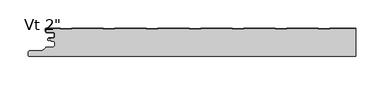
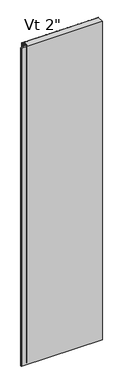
"""IFC4 building model written with IfcOpenShell, lengths in millimetres: plate geometry."""

from ifc_helpers import new_model, si_unit, frame, origin, place, context, project, spatial, polyline, circle_curve, source, transform, mapped, element, save
from ifc_brep_helpers import plane_surface, cylinder_surface, revolved_surface, advanced_brep


def plate_80999a55(model_context):
    return source(origin(), model_context, "Body", "AdvancedBrep", [
        advanced_brep(
        [(-271.7683, -22.470875, 2400.0), (-270.567176, -21.3014003, 2400.0), (-266.8087826, -21.3014003, 2400.0), (-266.8087826, -22.6998791, 2400.0), (-264.1096715, -22.6998791, 2400.0), (-260.7596762, -26.0498744, 2400.0), (-260.7596762, -30.4498656, 2400.0), (-264.1096715, -33.7998609, 2400.0), (-275.9205606, -33.7998609, 2400.0), (-277.1226383, -34.2977778, 2400.0), (-282.6247094, -39.7998489, 2400.0), (-304.7198391, -39.7998489, 2400.0), (-307.3765707, -42.0184509, 2400.0), (-307.8125697, -47.0002718, 2400.0), (-305.2521175, -49.7945967, 2400.0), (272.7999998, -49.8, 2400.0), (272.7999998, -1.0063443, 2400.0), (227.5794012, -1.0063443, 2400.0), (226.1937683, -2.206575, 2400.0), (206.818602, -2.206575, 2400.0), (205.432969, -1.0063443, 2400.0), (151.3795536, -1.0063443, 2400.0), (149.9939207, -2.206575, 2400.0), (130.6187544, -2.206575, 2400.0), (129.2331214, -1.0063443, 2400.0), (75.179706, -1.0063443, 2400.0), (73.7940731, -2.206575, 2400.0), (54.4189068, -2.206575, 2400.0), (53.0332738, -1.0063443, 2400.0), (-1.0201416, -1.0063443, 2400.0), (-2.4057745, -2.206575, 2400.0), (-21.7809408, -2.206575, 2400.0), (-23.1665738, -1.0063443, 2400.0), (-77.2199892, -1.0063443, 2400.0), (-78.6056221, -2.206575, 2400.0), (-97.9807884, -2.206575, 2400.0), (-99.3664214, -1.0063443, 2400.0), (-153.4198368, -1.0063443, 2400.0), (-154.8054697, -2.206575, 2400.0), (-174.180636, -2.206575, 2400.0), (-175.566269, -1.0063443, 2400.0), (-229.6196844, -1.0063443, 2400.0), (-231.0053173, -2.206575, 2400.0), (-250.3804836, -2.206575, 2400.0), (-251.7661166, -1.0063443, 2400.0), (-276.2662504, -1.0063443, 2400.0), (-276.2662504, -5.2378832, 2400.0), (-274.4962562, -7.0078774, 2400.0), (-264.0762777, -7.0078774, 2400.0), (-260.7762818, -10.3078733, 2400.0), (-260.7762818, -14.7078645, 2400.0), (-264.0762775, -18.0078602, 2400.0), (-266.7684873, -18.0078602, 2400.0), (-266.7684873, -19.0078547, 2400.0), (-270.768691, -19.0078547, 2400.0), (-271.7686882, -18.0078635, 2400.0), (-272.7999998, -19.0391752, 2400.0), (-272.7999998, -21.4391751, 2400.0), (-271.7683, -22.470875, 0.0), (-272.7999998, -21.4391751, 0.0), (-272.7999998, -19.0391752, 0.0), (-271.7686882, -18.0078635, 0.0), (-270.768691, -19.0078547, 0.0), (-266.7684873, -19.0078547, 0.0), (-266.7684873, -18.0078602, 0.0), (-264.0762775, -18.0078602, 0.0), (-260.7762818, -14.7078645, 0.0), (-260.7762818, -10.3078733, 0.0), (-264.0762777, -7.0078774, 0.0), (-274.4962562, -7.0078774, 0.0), (-276.2662504, -5.2378832, 0.0), (-276.2662504, -1.0063443, 0.0), (-251.7661166, -1.0063443, 0.0), (-250.3804836, -2.206575, 0.0), (-231.0053173, -2.206575, 0.0), (-229.6196844, -1.0063443, 0.0), (-175.566269, -1.0063443, 0.0), (-174.180636, -2.206575, 0.0), (-154.8054697, -2.206575, 0.0), (-153.4198368, -1.0063443, 0.0), (-99.3664214, -1.0063443, 0.0), (-97.9807884, -2.206575, 0.0), (-78.6056221, -2.206575, 0.0), (-77.2199892, -1.0063443, 0.0), (-23.1665738, -1.0063443, 0.0), (-21.7809408, -2.206575, 0.0), (-2.4057745, -2.206575, 0.0), (-1.0201416, -1.0063443, 0.0), (53.0332738, -1.0063443, 0.0), (54.4189068, -2.206575, 0.0), (73.7940731, -2.206575, 0.0), (75.179706, -1.0063443, 0.0), (129.2331214, -1.0063443, 0.0), (130.6187544, -2.206575, 0.0), (149.9939207, -2.206575, 0.0), (151.3795536, -1.0063443, 0.0), (205.432969, -1.0063443, 0.0), (206.818602, -2.206575, 0.0), (226.1937683, -2.206575, 0.0), (227.5794012, -1.0063443, 0.0), (272.7999998, -1.0063443, 0.0), (272.7999998, -49.8, 0.0), (-305.2521175, -49.8, 0.0), (-307.8125697, -47.0002718, 0.0), (-307.3765707, -42.0184509, 0.0), (-304.7198391, -39.7998489, 0.0), (-282.6247094, -39.7998489, 0.0), (-277.1226383, -34.2977778, 0.0), (-275.9205606, -33.7998609, 0.0), (-264.1096715, -33.7998609, 0.0), (-260.7596762, -30.4498656, 0.0), (-260.7596762, -26.0498744, 0.0), (-264.1096715, -22.6998791, 0.0), (-266.8087826, -22.6998791, 0.0), (-266.8087826, -21.3014003, 0.0), (-270.567176, -21.3014003, 0.0)],
        [
            (0, 1, circle_curve(frame((-270.5686906, -22.5013969, 2400.0), z_axis=(0.0, 0.0, -1.0), x_axis=(-1.0, 0.0, 0.0)), 1.1999976)),
            (1, 2),
            (2, 3),
            (3, 4),
            (4, 5, circle_curve(frame((-264.1096715, -26.0498744, 2400.0), z_axis=(0.0, 0.0, -1.0), x_axis=(-1.0, 0.0, 0.0)), 3.3499953)),
            (5, 6),
            (6, 7, circle_curve(frame((-264.1096715, -30.4498656, 2400.0), z_axis=(0.0, 0.0, -1.0), x_axis=(-1.0, 0.0, 0.0)), 3.3499953)),
            (7, 8),
            (8, 9, circle_curve(frame((-275.9205606, -35.4998555, 2400.0), z_axis=(0.0, 0.0, 1.0), x_axis=(-1.0, 0.0, 0.0)), 1.6999946)),
            (9, 10),
            (10, 11),
            (11, 12, circle_curve(frame((-304.7198391, -42.4998415, 2400.0), z_axis=(0.0, 0.0, 1.0), x_axis=(-1.0, 0.0, 0.0)), 2.6999926)),
            (12, 13),
            (13, 14, circle_curve(frame((-305.2521175, -47.2243575, 2400.0), z_axis=(0.0, 0.0, 1.0), x_axis=(-1.0, 0.0, 0.0)), 2.5702393)),
            (14, 15),
            (15, 16),
            (16, 17),
            (17, 18),
            (18, 19),
            (19, 20),
            (20, 21),
            (21, 22),
            (22, 23),
            (23, 24),
            (24, 25),
            (25, 26),
            (26, 27),
            (27, 28),
            (28, 29),
            (29, 30),
            (30, 31),
            (31, 32),
            (32, 33),
            (33, 34),
            (34, 35),
            (35, 36),
            (36, 37),
            (37, 38),
            (38, 39),
            (39, 40),
            (40, 41),
            (41, 42),
            (42, 43),
            (43, 44),
            (44, 45),
            (45, 46),
            (46, 47, circle_curve(frame((-274.4962562, -5.2378832, 2400.0), z_axis=(0.0, 0.0, 1.0), x_axis=(-1.0, 0.0, 0.0)), 1.7699942)),
            (47, 48),
            (48, 49, circle_curve(frame((-264.0762777, -10.3078733, 2400.0), z_axis=(0.0, 0.0, -1.0), x_axis=(-1.0, 0.0, 0.0)), 3.2999959)),
            (49, 50),
            (50, 51, circle_curve(frame((-264.0762775, -14.7078645, 2400.0), z_axis=(0.0, 0.0, -1.0), x_axis=(-1.0, 0.0, 0.0)), 3.2999957)),
            (51, 52),
            (52, 53),
            (53, 54),
            (54, 55, circle_curve(frame((-270.768691, -18.0078576, 2400.0), z_axis=(0.0, 0.0, -1.0), x_axis=(-1.0, 0.0, 0.0)), 0.9999972)),
            (55, 56),
            (56, 57),
            (57, 0),
            (58, 59),
            (59, 60),
            (60, 61),
            (61, 62, circle_curve(frame((-270.768691, -18.0078576, 0.0), z_axis=(0.0, 0.0, 1.0), x_axis=(-1.0, 0.0, 0.0)), 0.9999972)),
            (62, 63),
            (63, 64),
            (64, 65),
            (65, 66, circle_curve(frame((-264.0762775, -14.7078645, 0.0), z_axis=(0.0, 0.0, 1.0), x_axis=(-1.0, 0.0, 0.0)), 3.2999957)),
            (66, 67),
            (67, 68, circle_curve(frame((-264.0762777, -10.3078733, 0.0), z_axis=(0.0, 0.0, 1.0), x_axis=(-1.0, 0.0, 0.0)), 3.2999959)),
            (68, 69),
            (69, 70, circle_curve(frame((-274.4962562, -5.2378832, 0.0), z_axis=(0.0, 0.0, -1.0), x_axis=(-1.0, 0.0, 0.0)), 1.7699942)),
            (70, 71),
            (71, 72),
            (72, 73),
            (73, 74),
            (74, 75),
            (75, 76),
            (76, 77),
            (77, 78),
            (78, 79),
            (79, 80),
            (80, 81),
            (81, 82),
            (82, 83),
            (83, 84),
            (84, 85),
            (85, 86),
            (86, 87),
            (87, 88),
            (88, 89),
            (89, 90),
            (90, 91),
            (91, 92),
            (92, 93),
            (93, 94),
            (94, 95),
            (95, 96),
            (96, 97),
            (97, 98),
            (98, 99),
            (99, 100),
            (100, 101),
            (101, 102),
            (102, 103, circle_curve(frame((-305.2521175, -47.2243575, 0.0), z_axis=(0.0, 0.0, -1.0), x_axis=(-1.0, 0.0, 0.0)), 2.5702393)),
            (103, 104),
            (104, 105, circle_curve(frame((-304.7198391, -42.4998415, 0.0), z_axis=(0.0, 0.0, -1.0), x_axis=(-1.0, 0.0, 0.0)), 2.6999926)),
            (105, 106),
            (106, 107),
            (107, 108, circle_curve(frame((-275.9205606, -35.4998555, 0.0), z_axis=(0.0, 0.0, -1.0), x_axis=(-1.0, 0.0, 0.0)), 1.6999946)),
            (108, 109),
            (109, 110, circle_curve(frame((-264.1096715, -30.4498656, 0.0), z_axis=(0.0, 0.0, 1.0), x_axis=(-1.0, 0.0, 0.0)), 3.3499953)),
            (110, 111),
            (111, 112, circle_curve(frame((-264.1096715, -26.0498744, 0.0), z_axis=(0.0, 0.0, 1.0), x_axis=(-1.0, 0.0, 0.0)), 3.3499953)),
            (112, 113),
            (113, 114),
            (114, 115),
            (115, 58, circle_curve(frame((-270.5686906, -22.5013969, 0.0), z_axis=(0.0, 0.0, 1.0), x_axis=(-1.0, 0.0, 0.0)), 1.1999976)),
            (15, 101),
            (100, 16),
            (57, 59),
            (58, 0),
            (56, 60),
            (55, 61),
            (54, 62),
            (53, 63),
            (52, 64),
            (51, 65),
            (50, 66),
            (49, 67),
            (48, 68),
            (47, 69),
            (46, 70),
            (45, 71),
            (14, 102),
            (13, 103),
            (12, 104),
            (11, 105),
            (10, 106),
            (9, 107),
            (8, 108),
            (7, 109),
            (6, 110),
            (5, 111),
            (4, 112),
            (3, 113),
            (2, 114),
            (1, 115),
            (44, 72),
            (43, 73),
            (42, 74),
            (41, 75),
            (40, 76),
            (39, 77),
            (38, 78),
            (37, 79),
            (36, 80),
            (35, 81),
            (34, 82),
            (33, 83),
            (32, 84),
            (31, 85),
            (30, 86),
            (29, 87),
            (28, 88),
            (27, 89),
            (26, 90),
            (25, 91),
            (24, 92),
            (23, 93),
            (22, 94),
            (21, 95),
            (20, 96),
            (19, 97),
            (18, 98),
            (17, 99),
        ],
        [
            plane_surface(frame((184.4000002, -49.8, 2400.0), z_axis=(0.0, 0.0, 1.0), x_axis=(0.0, -1.0, 0.0))),
            plane_surface(frame((184.4000002, -49.8, 0.0), z_axis=(0.0, 0.0, -1.0), x_axis=(0.0, -1.0, 0.0))),
            plane_surface(frame((272.7999998, -60.8, 2400.0), z_axis=(1.0, 0.0, 0.0), x_axis=(0.0, 0.0, -1.0))),
            plane_surface(frame((-271.7683, -22.470875, 2400.0), z_axis=(-0.7071067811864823, -0.7071067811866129, 0.0), x_axis=(0.0, 0.0, -1.0))),
            plane_surface(frame((-272.7999998, -21.4391751, 2400.0), z_axis=(-1.0, 0.0, 0.0), x_axis=(0.0, 0.0, -1.0))),
            plane_surface(frame((-272.7999998, -19.0391752, 2400.0), z_axis=(-0.7071067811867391, 0.707106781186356, 0.0), x_axis=(0.0, 0.0, -1.0))),
            revolved_surface(polyline([(-271.7686882, -18.0078576, 0.0), (-271.7686882, -18.0078576, 2400.0)]), (-270.768691, -18.0078576, 2400.0), (0.0, 0.0, -1.0)),
            plane_surface(frame((-270.768691, -19.0078547, 2400.0), z_axis=(0.0, 1.0, 0.0), x_axis=(0.0, 0.0, -1.0))),
            plane_surface(frame((-266.7684873, -19.0078547, 2400.0), z_axis=(-1.0, 0.0, 0.0), x_axis=(0.0, 0.0, -1.0))),
            plane_surface(frame((-266.7684873, -18.0078602, 2400.0), z_axis=(0.0, 1.0, 0.0), x_axis=(0.0, 0.0, -1.0))),
            revolved_surface(polyline([(-267.3762732, -14.7078645, 0.0), (-267.3762732, -14.7078645, 2400.0)]), (-264.0762775, -14.7078645, 2400.0), (0.0, 0.0, -1.0)),
            plane_surface(frame((-260.7762818, -14.7078645, 2400.0), z_axis=(-1.0, 0.0, 0.0), x_axis=(0.0, 0.0, -1.0))),
            revolved_surface(polyline([(-267.3762736, -10.3078733, 0.0), (-267.3762736, -10.3078733, 2400.0)]), (-264.0762777, -10.3078733, 2400.0), (0.0, 0.0, -1.0)),
            plane_surface(frame((-264.0762777, -7.0078774, 2400.0), z_axis=(0.0, -1.0, 0.0), x_axis=(0.0, 0.0, -1.0))),
            cylinder_surface(frame((-274.4962562, -5.2378832, 2400.0), z_axis=(0.0, 0.0, 1.0), x_axis=(-1.0, 0.0, 0.0)), 1.7699942),
            plane_surface(frame((-276.2662504, -5.2378832, 2400.0), z_axis=(-1.0, 0.0, 0.0), x_axis=(0.0, 0.0, -1.0))),
            plane_surface(frame((593.1156221, -49.8, 2400.0), z_axis=(0.0, -1.0, 0.0), x_axis=(0.0, 0.0, -1.0))),
            cylinder_surface(frame((-305.2521175, -47.2243575, 2400.0), z_axis=(0.0, 0.0, 1.0), x_axis=(-1.0, 0.0, 0.0)), 2.5702393),
            plane_surface(frame((-307.8125697, -47.0002718, 2400.0), z_axis=(-0.9961921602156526, 0.0871847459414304, 0.0), x_axis=(0.0, 0.0, -1.0))),
            cylinder_surface(frame((-304.7198391, -42.4998415, 2400.0), z_axis=(0.0, 0.0, 1.0), x_axis=(-1.0, 0.0, 0.0)), 2.6999926),
            plane_surface(frame((-304.7198391, -39.7998489, 2400.0), z_axis=(0.0, 1.0, 0.0), x_axis=(0.0, 0.0, -1.0))),
            plane_surface(frame((-282.6247094, -39.7998489, 2400.0), z_axis=(-0.7071067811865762, 0.7071067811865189, 0.0), x_axis=(0.0, 0.0, -1.0))),
            cylinder_surface(frame((-275.9205606, -35.4998555, 2400.0), z_axis=(0.0, 0.0, 1.0), x_axis=(-1.0, 0.0, 0.0)), 1.6999946),
            plane_surface(frame((-275.9205606, -33.7998609, 2400.0), z_axis=(0.0, 1.0, 0.0), x_axis=(0.0, 0.0, -1.0))),
            revolved_surface(polyline([(-267.4596668, -30.4498656, 0.0), (-267.4596668, -30.4498656, 2400.0)]), (-264.1096715, -30.4498656, 2400.0), (0.0, 0.0, -1.0)),
            plane_surface(frame((-260.7596762, -30.4498656, 2400.0), z_axis=(-1.0, 0.0, 0.0), x_axis=(0.0, 0.0, -1.0))),
            revolved_surface(polyline([(-267.4596668, -26.0498744, 0.0), (-267.4596668, -26.0498744, 2400.0)]), (-264.1096715, -26.0498744, 2400.0), (0.0, 0.0, -1.0)),
            plane_surface(frame((-264.1096715, -22.6998791, 2400.0), z_axis=(0.0, -1.0, 0.0), x_axis=(0.0, 0.0, -1.0))),
            plane_surface(frame((-266.8087826, -22.6998791, 2400.0), z_axis=(-1.0, 0.0, 0.0), x_axis=(0.0, 0.0, -1.0))),
            plane_surface(frame((-266.8087826, -21.3014003, 2400.0), z_axis=(0.0, -1.0, 0.0), x_axis=(0.0, 0.0, -1.0))),
            revolved_surface(polyline([(-271.76868820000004, -22.5013969, 0.0), (-271.76868820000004, -22.5013969, 2400.0)]), (-270.5686906, -22.5013969, 2400.0), (0.0, 0.0, -1.0)),
            plane_surface(frame((-276.2662504, -1.0063443, 2400.0), z_axis=(0.0, 1.0, 0.0), x_axis=(0.0, 0.0, -1.0))),
            plane_surface(frame((-251.7661166, -1.0063443, 2400.0), z_axis=(0.6547276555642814, 0.7558648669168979, 0.0), x_axis=(0.0, 0.0, -1.0))),
            plane_surface(frame((-250.3804836, -2.206575, 2400.0), z_axis=(0.0, 1.0, 0.0), x_axis=(0.0, 0.0, -1.0))),
            plane_surface(frame((-231.0053173, -2.206575, 2400.0), z_axis=(-0.6547276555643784, 0.7558648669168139, 0.0), x_axis=(0.0, 0.0, -1.0))),
            plane_surface(frame((-229.6196844, -1.0063443, 2400.0), z_axis=(0.0, 1.0, 0.0), x_axis=(0.0, 0.0, -1.0))),
            plane_surface(frame((-175.566269, -1.0063443, 2400.0), z_axis=(0.6547276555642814, 0.7558648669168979, 0.0), x_axis=(0.0, 0.0, -1.0))),
            plane_surface(frame((-174.180636, -2.206575, 2400.0), z_axis=(0.0, 1.0, 0.0), x_axis=(0.0, 0.0, -1.0))),
            plane_surface(frame((-154.8054697, -2.206575, 2400.0), z_axis=(-0.6547276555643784, 0.7558648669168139, 0.0), x_axis=(0.0, 0.0, -1.0))),
            plane_surface(frame((-153.4198368, -1.0063443, 2400.0), z_axis=(0.0, 1.0, 0.0), x_axis=(0.0, 0.0, -1.0))),
            plane_surface(frame((-99.3664214, -1.0063443, 2400.0), z_axis=(0.6547276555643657, 0.7558648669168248, 0.0), x_axis=(0.0, 0.0, -1.0))),
            plane_surface(frame((-97.9807884, -2.206575, 2400.0), z_axis=(0.0, 1.0, 0.0), x_axis=(0.0, 0.0, -1.0))),
            plane_surface(frame((-78.6056221, -2.206575, 2400.0), z_axis=(-0.6547276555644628, 0.7558648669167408, 0.0), x_axis=(0.0, 0.0, -1.0))),
            plane_surface(frame((-77.2199892, -1.0063443, 2400.0), z_axis=(0.0, 1.0, 0.0), x_axis=(0.0, 0.0, -1.0))),
            plane_surface(frame((-23.1665738, -1.0063443, 2400.0), z_axis=(0.6547276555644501, 0.7558648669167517, 0.0), x_axis=(0.0, 0.0, -1.0))),
            plane_surface(frame((-21.7809408, -2.206575, 2400.0), z_axis=(0.0, 1.0, 0.0), x_axis=(0.0, 0.0, -1.0))),
            plane_surface(frame((-2.4057745, -2.206575, 2400.0), z_axis=(-0.6547276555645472, 0.7558648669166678, 0.0), x_axis=(0.0, 0.0, -1.0))),
            plane_surface(frame((-1.0201416, -1.0063443, 2400.0), z_axis=(0.0, 1.0, 0.0), x_axis=(0.0, 0.0, -1.0))),
            plane_surface(frame((53.0332738, -1.0063443, 2400.0), z_axis=(0.6547276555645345, 0.7558648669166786, 0.0), x_axis=(0.0, 0.0, -1.0))),
            plane_surface(frame((54.4189068, -2.206575, 2400.0), z_axis=(0.0, 1.0, 0.0), x_axis=(0.0, 0.0, -1.0))),
            plane_surface(frame((73.7940731, -2.206575, 2400.0), z_axis=(-0.6547276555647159, 0.7558648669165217, 0.0), x_axis=(0.0, 0.0, -1.0))),
            plane_surface(frame((75.179706, -1.0063443, 2400.0), z_axis=(0.0, 1.0, 0.0), x_axis=(0.0, 0.0, -1.0))),
            plane_surface(frame((129.2331214, -1.0063443, 2400.0), z_axis=(0.6547276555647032, 0.7558648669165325, 0.0), x_axis=(0.0, 0.0, -1.0))),
            plane_surface(frame((130.6187544, -2.206575, 2400.0), z_axis=(0.0, 1.0, 0.0), x_axis=(0.0, 0.0, -1.0))),
            plane_surface(frame((149.9939207, -2.206575, 2400.0), z_axis=(-0.6547276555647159, 0.7558648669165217, 0.0), x_axis=(0.0, 0.0, -1.0))),
            plane_surface(frame((151.3795536, -1.0063443, 2400.0), z_axis=(0.0, 1.0, 0.0), x_axis=(0.0, 0.0, -1.0))),
            plane_surface(frame((205.432969, -1.0063443, 2400.0), z_axis=(0.6547276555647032, 0.7558648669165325, 0.0), x_axis=(0.0, 0.0, -1.0))),
            plane_surface(frame((206.818602, -2.206575, 2400.0), z_axis=(0.0, 1.0, 0.0), x_axis=(0.0, 0.0, -1.0))),
            plane_surface(frame((226.1937683, -2.206575, 2400.0), z_axis=(-0.6547276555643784, 0.7558648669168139, 0.0), x_axis=(0.0, 0.0, -1.0))),
            plane_surface(frame((227.5794012, -1.0063443, 2400.0), z_axis=(0.0, 1.0, 0.0), x_axis=(0.0, 0.0, -1.0))),
        ],
        [
            (0, [[1, 2, 3, 4, 5, 6, 7, 8, 9, 10, 11, 12, 13, 14, 15, 16, 17, 18, 19, 20, 21, 22, 23, 24, 25, 26, 27, 28, 29, 30, 31, 32, 33, 34, 35, 36, 37, 38, 39, 40, 41, 42, 43, 44, 45, 46, 47, 48, 49, 50, 51, 52, 53, 54, 55, 56, 57, 58]]),
            (1, [[59, 60, 61, 62, 63, 64, 65, 66, 67, 68, 69, 70, 71, 72, 73, 74, 75, 76, 77, 78, 79, 80, 81, 82, 83, 84, 85, 86, 87, 88, 89, 90, 91, 92, 93, 94, 95, 96, 97, 98, 99, 100, 101, 102, 103, 104, 105, 106, 107, 108, 109, 110, 111, 112, 113, 114, 115, 116]]),
            (2, [[117, -101, 118, -16]]),
            (3, [[119, -59, 120, -58]]),
            (4, [[121, -60, -119, -57]]),
            (5, [[122, -61, -121, -56]]),
            (6, [[123, -62, -122, -55]]),
            (7, [[124, -63, -123, -54]]),
            (8, [[125, -64, -124, -53]]),
            (9, [[126, -65, -125, -52]]),
            (10, [[127, -66, -126, -51]]),
            (11, [[128, -67, -127, -50]]),
            (12, [[129, -68, -128, -49]]),
            (13, [[130, -69, -129, -48]]),
            (14, [[131, -70, -130, -47]]),
            (15, [[132, -71, -131, -46]]),
            (16, [[-102, -117, -15, 133]]),
            (17, [[134, -103, -133, -14]]),
            (18, [[135, -104, -134, -13]]),
            (19, [[136, -105, -135, -12]]),
            (20, [[137, -106, -136, -11]]),
            (21, [[138, -107, -137, -10]]),
            (22, [[139, -108, -138, -9]]),
            (23, [[140, -109, -139, -8]]),
            (24, [[141, -110, -140, -7]]),
            (25, [[142, -111, -141, -6]]),
            (26, [[143, -112, -142, -5]]),
            (27, [[144, -113, -143, -4]]),
            (28, [[145, -114, -144, -3]]),
            (29, [[146, -115, -145, -2]]),
            (30, [[-120, -116, -146, -1]]),
            (31, [[147, -72, -132, -45]]),
            (32, [[148, -73, -147, -44]]),
            (33, [[149, -74, -148, -43]]),
            (34, [[150, -75, -149, -42]]),
            (35, [[151, -76, -150, -41]]),
            (36, [[152, -77, -151, -40]]),
            (37, [[153, -78, -152, -39]]),
            (38, [[154, -79, -153, -38]]),
            (39, [[155, -80, -154, -37]]),
            (40, [[156, -81, -155, -36]]),
            (41, [[157, -82, -156, -35]]),
            (42, [[158, -83, -157, -34]]),
            (43, [[159, -84, -158, -33]]),
            (44, [[160, -85, -159, -32]]),
            (45, [[161, -86, -160, -31]]),
            (46, [[162, -87, -161, -30]]),
            (47, [[163, -88, -162, -29]]),
            (48, [[164, -89, -163, -28]]),
            (49, [[165, -90, -164, -27]]),
            (50, [[166, -91, -165, -26]]),
            (51, [[167, -92, -166, -25]]),
            (52, [[168, -93, -167, -24]]),
            (53, [[169, -94, -168, -23]]),
            (54, [[170, -95, -169, -22]]),
            (55, [[171, -96, -170, -21]]),
            (56, [[172, -97, -171, -20]]),
            (57, [[173, -98, -172, -19]]),
            (58, [[174, -99, -173, -18]]),
            (59, [[-17, -118, -100, -174]]),
        ],
    ),
        advanced_brep(
        [(-270.768691, -17.0015159, 2400.0), (-271.7686883, -18.0015191, 2400.0), (-270.768691, -19.0015105, 2400.0), (-266.7684874, -19.0015105, 2400.0), (-266.7684874, -18.0015159, 2400.0), (-264.0762776, -18.0015159, 2400.0), (-260.7762819, -14.7015202, 2400.0), (-260.7762819, -10.301529, 2400.0), (-264.0762774, -7.0015335, 2400.0), (-274.4962563, -7.0015335, 2400.0), (-276.2662505, -5.2315393, 2400.0), (-276.2662505, -0.9999916, 2400.0), (-251.7659738, -0.9999916, 2400.0), (-250.3803312, -2.2002307, 2400.0), (-231.0051649, -2.2002307, 2400.0), (-229.619532, -1.0, 2400.0), (-175.5661166, -1.0, 2400.0), (-174.1804836, -2.2002307, 2400.0), (-154.8053173, -2.2002307, 2400.0), (-153.4196844, -1.0, 2400.0), (-99.366269, -1.0, 2400.0), (-97.980636, -2.2002307, 2400.0), (-78.6054697, -2.2002307, 2400.0), (-77.2198368, -1.0, 2400.0), (-23.1664214, -1.0, 2400.0), (-21.7807884, -2.2002307, 2400.0), (-2.4056221, -2.2002307, 2400.0), (-1.0199892, -1.0, 2400.0), (53.0334262, -1.0, 2400.0), (54.4190592, -2.2002307, 2400.0), (73.7942255, -2.2002307, 2400.0), (75.1798584, -1.0, 2400.0), (129.2332738, -1.0, 2400.0), (130.6189068, -2.2002307, 2400.0), (149.9940731, -2.2002307, 2400.0), (151.379706, -1.0, 2400.0), (205.4331214, -1.0, 2400.0), (206.8187544, -2.2002307, 2400.0), (226.1939207, -2.2002307, 2400.0), (227.5795536, -1.0, 2400.0), (272.7999998, -1.0, 2400.0), (272.7999998, 0.0, 2400.0), (227.7287048, 0.0, 2400.0), (226.8120879, -0.3417885, 2400.0), (225.8210403, -1.2002307, 2400.0), (207.1916348, -1.2002307, 2400.0), (206.2005872, -0.3417885, 2400.0), (205.2839703, 0.0, 2400.0), (151.5288572, 0.0, 2400.0), (150.6122403, -0.3417885, 2400.0), (149.6211927, -1.2002307, 2400.0), (130.9917872, -1.2002307, 2400.0), (130.0007396, -0.3417885, 2400.0), (129.0841227, 0.0, 2400.0), (75.3290096, 0.0, 2400.0), (74.4123927, -0.3417885, 2400.0), (73.4213451, -1.2002307, 2400.0), (54.7919396, -1.2002307, 2400.0), (53.800892, -0.3417885, 2400.0), (52.8842751, 0.0, 2400.0), (-0.870838, 0.0, 2400.0), (-1.7874549, -0.3417885, 2400.0), (-2.7785025, -1.2002307, 2400.0), (-21.407908, -1.2002307, 2400.0), (-22.3989556, -0.3417885, 2400.0), (-23.3155725, 0.0, 2400.0), (-77.0706856, 0.0, 2400.0), (-77.9873025, -0.3417885, 2400.0), (-78.9783501, -1.2002307, 2400.0), (-97.6077556, -1.2002307, 2400.0), (-98.5988032, -0.3417885, 2400.0), (-99.5154201, 0.0, 2400.0), (-153.2705332, 0.0, 2400.0), (-154.1871501, -0.3417885, 2400.0), (-155.1781977, -1.2002307, 2400.0), (-173.8076032, -1.2002307, 2400.0), (-174.7986508, -0.3417885, 2400.0), (-175.7152677, 0.0, 2400.0), (-229.4703808, 0.0, 2400.0), (-230.3869977, -0.3417885, 2400.0), (-231.3780453, -1.2002307, 2400.0), (-250.0074508, -1.2002307, 2400.0), (-250.9984984, -0.3417885, 2400.0), (-251.9152067, 0.0, 2400.0), (-275.8662543, 8.4e-06, 2400.0), (-277.2662505, -1.3999878, 2400.0), (-277.2662505, -5.2315393, 2400.0), (-274.4962563, -8.0015335, 2400.0), (-264.0762774, -8.0015335, 2400.0), (-261.7762819, -10.301529, 2400.0), (-261.7762819, -14.7015202, 2400.0), (-264.0762776, -17.0015159, 2400.0), (-270.768691, -17.0015159, 0.0), (-264.0762776, -17.0015159, 0.0), (-261.7762819, -14.7015202, 0.0), (-261.7762819, -10.301529, 0.0), (-264.0762774, -8.0015335, 0.0), (-274.4962563, -8.0015335, 0.0), (-277.2662505, -5.2315393, 0.0), (-277.2662505, -1.3999878, 0.0), (-275.8662543, 8.4e-06, 0.0), (-251.9151153, 8.4e-06, 0.0), (-250.9984984, -0.3417885, 0.0), (-250.0074508, -1.2002307, 0.0), (-231.3780453, -1.2002307, 0.0), (-230.3869977, -0.3417885, 0.0), (-229.4703808, 0.0, 0.0), (-175.7152677, 0.0, 0.0), (-174.7986508, -0.3417885, 0.0), (-173.8076032, -1.2002307, 0.0), (-155.1781977, -1.2002307, 0.0), (-154.1871501, -0.3417885, 0.0), (-153.2705332, 0.0, 0.0), (-99.5154201, 0.0, 0.0), (-98.5988032, -0.3417885, 0.0), (-97.6077556, -1.2002307, 0.0), (-78.9783501, -1.2002307, 0.0), (-77.9873025, -0.3417885, 0.0), (-77.0706856, 0.0, 0.0), (-23.3155725, 0.0, 0.0), (-22.3989556, -0.3417885, 0.0), (-21.407908, -1.2002307, 0.0), (-2.7785025, -1.2002307, 0.0), (-1.7874549, -0.3417885, 0.0), (-0.870838, 0.0, 0.0), (52.8842751, 0.0, 0.0), (53.800892, -0.3417885, 0.0), (54.7919396, -1.2002307, 0.0), (73.4213451, -1.2002307, 0.0), (74.4123927, -0.3417885, 0.0), (75.3290096, 0.0, 0.0), (129.0841227, 0.0, 0.0), (130.0007396, -0.3417885, 0.0), (130.9917872, -1.2002307, 0.0), (149.6211927, -1.2002307, 0.0), (150.6122403, -0.3417885, 0.0), (151.5288572, 0.0, 0.0), (205.2839703, 0.0, 0.0), (206.2005872, -0.3417885, 0.0), (207.1916348, -1.2002307, 0.0), (225.8210403, -1.2002307, 0.0), (226.8120879, -0.3417885, 0.0), (227.7287048, 0.0, 0.0), (272.7999998, 0.0, 0.0), (272.7999998, -1.0, 0.0), (227.5795536, -1.0, 0.0), (226.1939207, -2.2002307, 0.0), (206.8187544, -2.2002307, 0.0), (205.4331214, -1.0, 0.0), (151.379706, -1.0, 0.0), (149.9940731, -2.2002307, 0.0), (130.6189068, -2.2002307, 0.0), (129.2332738, -1.0, 0.0), (75.1798584, -1.0, 0.0), (73.7942255, -2.2002307, 0.0), (54.4190592, -2.2002307, 0.0), (53.0334262, -1.0, 0.0), (-1.0199892, -1.0, 0.0), (-2.4056221, -2.2002307, 0.0), (-21.7807884, -2.2002307, 0.0), (-23.1664214, -1.0, 0.0), (-77.2198368, -1.0, 0.0), (-78.6054697, -2.2002307, 0.0), (-97.980636, -2.2002307, 0.0), (-99.366269, -1.0, 0.0), (-153.4196844, -1.0, 0.0), (-154.8053173, -2.2002307, 0.0), (-174.1804836, -2.2002307, 0.0), (-175.5661166, -1.0, 0.0), (-229.619532, -1.0, 0.0), (-231.0051649, -2.2002307, 0.0), (-250.3803312, -2.2002307, 0.0), (-251.7659738, -0.9999916, 0.0), (-276.2662505, -0.9999916, 0.0), (-276.2662505, -5.2315393, 0.0), (-274.4962563, -7.0015335, 0.0), (-264.0762774, -7.0015335, 0.0), (-260.7762819, -10.301529, 0.0), (-260.7762819, -14.7015202, 0.0), (-264.0762776, -18.0015159, 0.0), (-266.7684874, -18.0015159, 0.0), (-266.7684874, -19.0015105, 0.0), (-270.768691, -19.0015105, 0.0), (-271.7686882, -18.0015192, 0.0)],
        [
            (0, 1, circle_curve(frame((-270.768691, -18.0015132, 2400.0), z_axis=(0.0, 0.0, 1.0), x_axis=(1.0, 0.0, 0.0)), 0.9999973)),
            (1, 2, circle_curve(frame((-270.768691, -18.0015133, 2400.0), z_axis=(0.0, 0.0, 1.0), x_axis=(1.0, 0.0, 0.0)), 0.9999972)),
            (2, 3),
            (3, 4),
            (4, 5),
            (5, 6, circle_curve(frame((-264.0762776, -14.7015202, 2400.0), z_axis=(0.0, 0.0, 1.0), x_axis=(1.0, 0.0, 0.0)), 3.2999957)),
            (6, 7),
            (7, 8, circle_curve(frame((-264.0762774, -10.301529, 2400.0), z_axis=(0.0, 0.0, 1.0), x_axis=(1.0, 0.0, 0.0)), 3.2999955)),
            (8, 9),
            (9, 10, circle_curve(frame((-274.4962563, -5.2315393, 2400.0), z_axis=(0.0, 0.0, -1.0), x_axis=(1.0, 0.0, 0.0)), 1.7699942)),
            (10, 11),
            (11, 12),
            (12, 13),
            (13, 14),
            (14, 15),
            (15, 16),
            (16, 17),
            (17, 18),
            (18, 19),
            (19, 20),
            (20, 21),
            (21, 22),
            (22, 23),
            (23, 24),
            (24, 25),
            (25, 26),
            (26, 27),
            (27, 28),
            (28, 29),
            (29, 30),
            (30, 31),
            (31, 32),
            (32, 33),
            (33, 34),
            (34, 35),
            (35, 36),
            (36, 37),
            (37, 38),
            (38, 39),
            (39, 40),
            (40, 41),
            (41, 42),
            (42, 43, circle_curve(frame((227.7287048, -1.3999972, 2400.0), z_axis=(0.0, 0.0, 1.0), x_axis=(1.0, 0.0, 0.0)), 1.3999972)),
            (43, 44),
            (44, 45),
            (45, 46),
            (46, 47, circle_curve(frame((205.2839703, -1.3999972, 2400.0), z_axis=(0.0, 0.0, 1.0), x_axis=(1.0, 0.0, 0.0)), 1.3999972)),
            (47, 48),
            (48, 49, circle_curve(frame((151.5288572, -1.3999972, 2400.0), z_axis=(0.0, 0.0, 1.0), x_axis=(1.0, 0.0, 0.0)), 1.3999972)),
            (49, 50),
            (50, 51),
            (51, 52),
            (52, 53, circle_curve(frame((129.0841227, -1.3999972, 2400.0), z_axis=(0.0, 0.0, 1.0), x_axis=(1.0, 0.0, 0.0)), 1.3999972)),
            (53, 54),
            (54, 55, circle_curve(frame((75.3290096, -1.3999972, 2400.0), z_axis=(0.0, 0.0, 1.0), x_axis=(1.0, 0.0, 0.0)), 1.3999972)),
            (55, 56),
            (56, 57),
            (57, 58),
            (58, 59, circle_curve(frame((52.8842751, -1.3999972, 2400.0), z_axis=(0.0, 0.0, 1.0), x_axis=(1.0, 0.0, 0.0)), 1.3999972)),
            (59, 60),
            (60, 61, circle_curve(frame((-0.870838, -1.3999972, 2400.0), z_axis=(0.0, 0.0, 1.0), x_axis=(1.0, 0.0, 0.0)), 1.3999972)),
            (61, 62),
            (62, 63),
            (63, 64),
            (64, 65, circle_curve(frame((-23.3155725, -1.3999972, 2400.0), z_axis=(0.0, 0.0, 1.0), x_axis=(1.0, 0.0, 0.0)), 1.3999972)),
            (65, 66),
            (66, 67, circle_curve(frame((-77.0706856, -1.3999972, 2400.0), z_axis=(0.0, 0.0, 1.0), x_axis=(1.0, 0.0, 0.0)), 1.3999972)),
            (67, 68),
            (68, 69),
            (69, 70),
            (70, 71, circle_curve(frame((-99.5154201, -1.3999972, 2400.0), z_axis=(0.0, 0.0, 1.0), x_axis=(1.0, 0.0, 0.0)), 1.3999972)),
            (71, 72),
            (72, 73, circle_curve(frame((-153.2705332, -1.3999972, 2400.0), z_axis=(0.0, 0.0, 1.0), x_axis=(1.0, 0.0, 0.0)), 1.3999972)),
            (73, 74),
            (74, 75),
            (75, 76),
            (76, 77, circle_curve(frame((-175.7152677, -1.3999972, 2400.0), z_axis=(0.0, 0.0, 1.0), x_axis=(1.0, 0.0, 0.0)), 1.3999972)),
            (77, 78),
            (78, 79, circle_curve(frame((-229.4703808, -1.3999972, 2400.0), z_axis=(0.0, 0.0, 1.0), x_axis=(1.0, 0.0, 0.0)), 1.3999972)),
            (79, 80),
            (80, 81),
            (81, 82),
            (82, 83, circle_curve(frame((-251.9151153, -1.3999972, 2400.0), z_axis=(0.0, 0.0, 1.0), x_axis=(1.0, 0.0, 0.0)), 1.3999972)),
            (83, 84),
            (84, 85, circle_curve(frame((-275.8662543, -1.3999878, 2400.0), z_axis=(0.0, 0.0, 1.0), x_axis=(1.0, 0.0, 0.0)), 1.3999962)),
            (85, 86),
            (86, 87, circle_curve(frame((-274.4962563, -5.2315393, 2400.0), z_axis=(0.0, 0.0, 1.0), x_axis=(1.0, 0.0, 0.0)), 2.7699942)),
            (87, 88),
            (88, 89, circle_curve(frame((-264.0762774, -10.301529, 2400.0), z_axis=(0.0, 0.0, -1.0), x_axis=(1.0, 0.0, 0.0)), 2.2999955)),
            (89, 90),
            (90, 91, circle_curve(frame((-264.0762776, -14.7015202, 2400.0), z_axis=(0.0, 0.0, -1.0), x_axis=(1.0, 0.0, 0.0)), 2.2999957)),
            (91, 0),
            (92, 93),
            (93, 94, circle_curve(frame((-264.0762776, -14.7015202, 0.0), z_axis=(0.0, 0.0, 1.0), x_axis=(1.0, 0.0, 0.0)), 2.2999957)),
            (94, 95),
            (95, 96, circle_curve(frame((-264.0762774, -10.301529, 0.0), z_axis=(0.0, 0.0, 1.0), x_axis=(1.0, 0.0, 0.0)), 2.2999955)),
            (96, 97),
            (97, 98, circle_curve(frame((-274.4962563, -5.2315393, 0.0), z_axis=(0.0, 0.0, -1.0), x_axis=(1.0, 0.0, 0.0)), 2.7699942)),
            (98, 99),
            (99, 100, circle_curve(frame((-275.8662543, -1.3999878, 0.0), z_axis=(0.0, 0.0, -1.0), x_axis=(1.0, 0.0, 0.0)), 1.3999962)),
            (100, 101),
            (101, 102, circle_curve(frame((-251.9151153, -1.3999972, 0.0), z_axis=(0.0, 0.0, -1.0), x_axis=(1.0, 0.0, 0.0)), 1.3999972)),
            (102, 103),
            (103, 104),
            (104, 105),
            (105, 106, circle_curve(frame((-229.4703808, -1.3999972, 0.0), z_axis=(0.0, 0.0, -1.0), x_axis=(1.0, 0.0, 0.0)), 1.3999972)),
            (106, 107),
            (107, 108, circle_curve(frame((-175.7152677, -1.3999972, 0.0), z_axis=(0.0, 0.0, -1.0), x_axis=(1.0, 0.0, 0.0)), 1.3999972)),
            (108, 109),
            (109, 110),
            (110, 111),
            (111, 112, circle_curve(frame((-153.2705332, -1.3999972, 0.0), z_axis=(0.0, 0.0, -1.0), x_axis=(1.0, 0.0, 0.0)), 1.3999972)),
            (112, 113),
            (113, 114, circle_curve(frame((-99.5154201, -1.3999972, 0.0), z_axis=(0.0, 0.0, -1.0), x_axis=(1.0, 0.0, 0.0)), 1.3999972)),
            (114, 115),
            (115, 116),
            (116, 117),
            (117, 118, circle_curve(frame((-77.0706856, -1.3999972, 0.0), z_axis=(0.0, 0.0, -1.0), x_axis=(1.0, 0.0, 0.0)), 1.3999972)),
            (118, 119),
            (119, 120, circle_curve(frame((-23.3155725, -1.3999972, 0.0), z_axis=(0.0, 0.0, -1.0), x_axis=(1.0, 0.0, 0.0)), 1.3999972)),
            (120, 121),
            (121, 122),
            (122, 123),
            (123, 124, circle_curve(frame((-0.870838, -1.3999972, 0.0), z_axis=(0.0, 0.0, -1.0), x_axis=(1.0, 0.0, 0.0)), 1.3999972)),
            (124, 125),
            (125, 126, circle_curve(frame((52.8842751, -1.3999972, 0.0), z_axis=(0.0, 0.0, -1.0), x_axis=(1.0, 0.0, 0.0)), 1.3999972)),
            (126, 127),
            (127, 128),
            (128, 129),
            (129, 130, circle_curve(frame((75.3290096, -1.3999972, 0.0), z_axis=(0.0, 0.0, -1.0), x_axis=(1.0, 0.0, 0.0)), 1.3999972)),
            (130, 131),
            (131, 132, circle_curve(frame((129.0841227, -1.3999972, 0.0), z_axis=(0.0, 0.0, -1.0), x_axis=(1.0, 0.0, 0.0)), 1.3999972)),
            (132, 133),
            (133, 134),
            (134, 135),
            (135, 136, circle_curve(frame((151.5288572, -1.3999972, 0.0), z_axis=(0.0, 0.0, -1.0), x_axis=(1.0, 0.0, 0.0)), 1.3999972)),
            (136, 137),
            (137, 138, circle_curve(frame((205.2839703, -1.3999972, 0.0), z_axis=(0.0, 0.0, -1.0), x_axis=(1.0, 0.0, 0.0)), 1.3999972)),
            (138, 139),
            (139, 140),
            (140, 141),
            (141, 142, circle_curve(frame((227.7287048, -1.3999972, 0.0), z_axis=(0.0, 0.0, -1.0), x_axis=(1.0, 0.0, 0.0)), 1.3999972)),
            (142, 143),
            (143, 144),
            (144, 145),
            (145, 146),
            (146, 147),
            (147, 148),
            (148, 149),
            (149, 150),
            (150, 151),
            (151, 152),
            (152, 153),
            (153, 154),
            (154, 155),
            (155, 156),
            (156, 157),
            (157, 158),
            (158, 159),
            (159, 160),
            (160, 161),
            (161, 162),
            (162, 163),
            (163, 164),
            (164, 165),
            (165, 166),
            (166, 167),
            (167, 168),
            (168, 169),
            (169, 170),
            (170, 171),
            (171, 172),
            (172, 173),
            (173, 174),
            (174, 175, circle_curve(frame((-274.4962563, -5.2315393, 0.0), z_axis=(0.0, 0.0, 1.0), x_axis=(1.0, 0.0, 0.0)), 1.7699942)),
            (175, 176),
            (176, 177, circle_curve(frame((-264.0762774, -10.301529, 0.0), z_axis=(0.0, 0.0, -1.0), x_axis=(1.0, 0.0, 0.0)), 3.2999955)),
            (177, 178),
            (178, 179, circle_curve(frame((-264.0762776, -14.7015202, 0.0), z_axis=(0.0, 0.0, -1.0), x_axis=(1.0, 0.0, 0.0)), 3.2999957)),
            (179, 180),
            (180, 181),
            (181, 182),
            (182, 183, circle_curve(frame((-270.768691, -18.0015133, 0.0), z_axis=(0.0, 0.0, -1.0), x_axis=(1.0, 0.0, 0.0)), 0.9999972)),
            (183, 92, circle_curve(frame((-270.768691, -18.0015132, 0.0), z_axis=(0.0, 0.0, -1.0), x_axis=(1.0, 0.0, 0.0)), 0.9999973)),
            (91, 93),
            (92, 0),
            (90, 94),
            (89, 95),
            (88, 96),
            (87, 97),
            (86, 98),
            (85, 99),
            (84, 100),
            (83, 101),
            (10, 174),
            (173, 11),
            (9, 175),
            (8, 176),
            (7, 177),
            (6, 178),
            (5, 179),
            (4, 180),
            (3, 181),
            (2, 182),
            (1, 183),
            (40, 144),
            (143, 41),
            (82, 102),
            (81, 103),
            (80, 104),
            (79, 105),
            (78, 106),
            (77, 107),
            (76, 108),
            (75, 109),
            (74, 110),
            (73, 111),
            (72, 112),
            (71, 113),
            (70, 114),
            (69, 115),
            (68, 116),
            (67, 117),
            (66, 118),
            (65, 119),
            (64, 120),
            (63, 121),
            (62, 122),
            (61, 123),
            (60, 124),
            (59, 125),
            (58, 126),
            (57, 127),
            (56, 128),
            (55, 129),
            (54, 130),
            (53, 131),
            (52, 132),
            (51, 133),
            (50, 134),
            (49, 135),
            (48, 136),
            (47, 137),
            (46, 138),
            (45, 139),
            (44, 140),
            (43, 141),
            (42, 142),
            (39, 145),
            (38, 146),
            (37, 147),
            (36, 148),
            (35, 149),
            (34, 150),
            (33, 151),
            (32, 152),
            (31, 153),
            (30, 154),
            (29, 155),
            (28, 156),
            (27, 157),
            (26, 158),
            (25, 159),
            (24, 160),
            (23, 161),
            (22, 162),
            (21, 163),
            (20, 164),
            (19, 165),
            (18, 166),
            (17, 167),
            (16, 168),
            (15, 169),
            (14, 170),
            (13, 171),
            (12, 172),
        ],
        [
            plane_surface(frame((184.4000002, 0.0, 2400.0), z_axis=(0.0, 0.0, 1.0), x_axis=(0.0, 1.0, 0.0))),
            plane_surface(frame((184.4000002, 0.0, 0.0), z_axis=(0.0, 0.0, -1.0), x_axis=(0.0, 1.0, 0.0))),
            plane_surface(frame((-270.768691, -17.0015159, 2400.0), z_axis=(0.0, 1.0, 0.0), x_axis=(0.0, 0.0, -1.0))),
            revolved_surface(polyline([(-261.7762819, -14.7015202, 0.0), (-261.7762819, -14.7015202, 2400.0)]), (-264.0762776, -14.7015202, 2400.0), (0.0, 0.0, -1.0)),
            plane_surface(frame((-261.7762819, -14.7015202, 2400.0), z_axis=(-1.0, 0.0, 0.0), x_axis=(0.0, 0.0, -1.0))),
            revolved_surface(polyline([(-261.77628189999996, -10.301529, 0.0), (-261.77628189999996, -10.301529, 2400.0)]), (-264.0762774, -10.301529, 2400.0), (0.0, 0.0, -1.0)),
            plane_surface(frame((-264.0762774, -8.0015335, 2400.0), z_axis=(0.0, -1.0, 0.0), x_axis=(0.0, 0.0, -1.0))),
            cylinder_surface(frame((-274.4962563, -5.2315393, 2400.0), z_axis=(0.0, 0.0, 1.0), x_axis=(1.0, 0.0, 0.0)), 2.7699942),
            plane_surface(frame((-277.2662505, -5.2315393, 2400.0), z_axis=(-1.0, 0.0, 0.0), x_axis=(0.0, 0.0, -1.0))),
            cylinder_surface(frame((-275.8662543, -1.3999878, 2400.0), z_axis=(0.0, 0.0, 1.0), x_axis=(1.0, 0.0, 0.0)), 1.3999962),
            plane_surface(frame((-275.8662543, 8.4e-06, 2400.0), z_axis=(0.0, 1.0, 0.0), x_axis=(0.0, 0.0, -1.0))),
            plane_surface(frame((-276.2662505, -0.9999916, 2400.0), z_axis=(1.0, 0.0, 0.0), x_axis=(0.0, 0.0, -1.0))),
            revolved_surface(polyline([(-272.72626210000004, -5.2315393, 0.0), (-272.72626210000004, -5.2315393, 2400.0)]), (-274.4962563, -5.2315393, 2400.0), (0.0, 0.0, -1.0)),
            plane_surface(frame((-274.4962563, -7.0015335, 2400.0), z_axis=(0.0, 1.0, 0.0), x_axis=(0.0, 0.0, -1.0))),
            cylinder_surface(frame((-264.0762774, -10.301529, 2400.0), z_axis=(0.0, 0.0, 1.0), x_axis=(1.0, 0.0, 0.0)), 3.2999955),
            plane_surface(frame((-260.7762819, -10.301529, 2400.0), z_axis=(1.0, 0.0, 0.0), x_axis=(0.0, 0.0, -1.0))),
            cylinder_surface(frame((-264.0762776, -14.7015202, 2400.0), z_axis=(0.0, 0.0, 1.0), x_axis=(1.0, 0.0, 0.0)), 3.2999957),
            plane_surface(frame((-264.0762776, -18.0015159, 2400.0), z_axis=(0.0, -1.0, 0.0), x_axis=(0.0, 0.0, -1.0))),
            plane_surface(frame((-266.7684874, -18.0015159, 2400.0), z_axis=(1.0, 0.0, 0.0), x_axis=(0.0, 0.0, -1.0))),
            plane_surface(frame((-266.7684874, -19.0015105, 2400.0), z_axis=(0.0, -1.0, 0.0), x_axis=(0.0, 0.0, -1.0))),
            cylinder_surface(frame((-270.768691, -18.0015133, 2400.0), z_axis=(0.0, 0.0, 1.0), x_axis=(1.0, 0.0, 0.0)), 0.9999972),
            cylinder_surface(frame((-270.768691, -18.0015132, 2400.0), z_axis=(0.0, 0.0, 1.0), x_axis=(1.0, 0.0, 0.0)), 0.9999973),
            plane_surface(frame((272.7999998, -60.8, 2400.0), z_axis=(1.0, 0.0, 0.0), x_axis=(0.0, 0.0, -1.0))),
            cylinder_surface(frame((-251.9151153, -1.3999972, 2400.0), z_axis=(0.0, 0.0, 1.0), x_axis=(1.0, 0.0, 0.0)), 1.3999972),
            plane_surface(frame((-250.9984984, -0.3417885, 2400.0), z_axis=(0.6547276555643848, 0.7558648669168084, 0.0), x_axis=(0.0, 0.0, -1.0))),
            plane_surface(frame((-240.6927481, -1.2002307, 2400.0), z_axis=(0.0, 1.0, 0.0), x_axis=(0.0, 0.0, -1.0))),
            plane_surface(frame((-231.3780453, -1.2002307, 2400.0), z_axis=(-0.6547276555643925, 0.7558648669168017, 0.0), x_axis=(0.0, 0.0, -1.0))),
            cylinder_surface(frame((-229.4703808, -1.3999972, 2400.0), z_axis=(0.0, 0.0, 1.0), x_axis=(1.0, 0.0, 0.0)), 1.3999972),
            plane_surface(frame((-229.4703808, 0.0, 2400.0), z_axis=(0.0, 1.0, 0.0), x_axis=(0.0, 0.0, -1.0))),
            cylinder_surface(frame((-175.7152677, -1.3999972, 2400.0), z_axis=(0.0, 0.0, 1.0), x_axis=(1.0, 0.0, 0.0)), 1.3999972),
            plane_surface(frame((-174.7986508, -0.3417885, 2400.0), z_axis=(0.6547276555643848, 0.7558648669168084, 0.0), x_axis=(0.0, 0.0, -1.0))),
            plane_surface(frame((-164.4929005, -1.2002307, 2400.0), z_axis=(0.0, 1.0, 0.0), x_axis=(0.0, 0.0, -1.0))),
            plane_surface(frame((-155.1781977, -1.2002307, 2400.0), z_axis=(-0.6547276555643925, 0.7558648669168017, 0.0), x_axis=(0.0, 0.0, -1.0))),
            cylinder_surface(frame((-153.2705332, -1.3999972, 2400.0), z_axis=(0.0, 0.0, 1.0), x_axis=(1.0, 0.0, 0.0)), 1.3999972),
            plane_surface(frame((-153.2705332, 0.0, 2400.0), z_axis=(0.0, 1.0, 0.0), x_axis=(0.0, 0.0, -1.0))),
            cylinder_surface(frame((-99.5154201, -1.3999972, 2400.0), z_axis=(0.0, 0.0, 1.0), x_axis=(1.0, 0.0, 0.0)), 1.3999972),
            plane_surface(frame((-98.5988032, -0.3417885, 2400.0), z_axis=(0.6547276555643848, 0.7558648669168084, 0.0), x_axis=(0.0, 0.0, -1.0))),
            plane_surface(frame((-88.2930529, -1.2002307, 2400.0), z_axis=(0.0, 1.0, 0.0), x_axis=(0.0, 0.0, -1.0))),
            plane_surface(frame((-78.9783501, -1.2002307, 2400.0), z_axis=(-0.6547276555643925, 0.7558648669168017, 0.0), x_axis=(0.0, 0.0, -1.0))),
            cylinder_surface(frame((-77.0706856, -1.3999972, 2400.0), z_axis=(0.0, 0.0, 1.0), x_axis=(1.0, 0.0, 0.0)), 1.3999972),
            plane_surface(frame((-77.0706856, 0.0, 2400.0), z_axis=(0.0, 1.0, 0.0), x_axis=(0.0, 0.0, -1.0))),
            cylinder_surface(frame((-23.3155725, -1.3999972, 2400.0), z_axis=(0.0, 0.0, 1.0), x_axis=(1.0, 0.0, 0.0)), 1.3999972),
            plane_surface(frame((-22.3989556, -0.3417885, 2400.0), z_axis=(0.6547276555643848, 0.7558648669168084, 0.0), x_axis=(0.0, 0.0, -1.0))),
            plane_surface(frame((-12.0932053, -1.2002307, 2400.0), z_axis=(0.0, 1.0, 0.0), x_axis=(0.0, 0.0, -1.0))),
            plane_surface(frame((-2.7785025, -1.2002307, 2400.0), z_axis=(-0.6547276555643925, 0.7558648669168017, 0.0), x_axis=(0.0, 0.0, -1.0))),
            cylinder_surface(frame((-0.870838, -1.3999972, 2400.0), z_axis=(0.0, 0.0, 1.0), x_axis=(1.0, 0.0, 0.0)), 1.3999972),
            plane_surface(frame((-0.870838, 0.0, 2400.0), z_axis=(0.0, 1.0, 0.0), x_axis=(0.0, 0.0, -1.0))),
            cylinder_surface(frame((52.8842751, -1.3999972, 2400.0), z_axis=(0.0, 0.0, 1.0), x_axis=(1.0, 0.0, 0.0)), 1.3999972),
            plane_surface(frame((53.800892, -0.3417885, 2400.0), z_axis=(0.6547276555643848, 0.7558648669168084, 0.0), x_axis=(0.0, 0.0, -1.0))),
            plane_surface(frame((64.1066423, -1.2002307, 2400.0), z_axis=(0.0, 1.0, 0.0), x_axis=(0.0, 0.0, -1.0))),
            plane_surface(frame((73.4213451, -1.2002307, 2400.0), z_axis=(-0.6547276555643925, 0.7558648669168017, 0.0), x_axis=(0.0, 0.0, -1.0))),
            cylinder_surface(frame((75.3290096, -1.3999972, 2400.0), z_axis=(0.0, 0.0, 1.0), x_axis=(1.0, 0.0, 0.0)), 1.3999972),
            plane_surface(frame((75.3290096, 0.0, 2400.0), z_axis=(0.0, 1.0, 0.0), x_axis=(0.0, 0.0, -1.0))),
            cylinder_surface(frame((129.0841227, -1.3999972, 2400.0), z_axis=(0.0, 0.0, 1.0), x_axis=(1.0, 0.0, 0.0)), 1.3999972),
            plane_surface(frame((130.0007396, -0.3417885, 2400.0), z_axis=(0.6547276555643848, 0.7558648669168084, 0.0), x_axis=(0.0, 0.0, -1.0))),
            plane_surface(frame((140.3064899, -1.2002307, 2400.0), z_axis=(0.0, 1.0, 0.0), x_axis=(0.0, 0.0, -1.0))),
            plane_surface(frame((149.6211927, -1.2002307, 2400.0), z_axis=(-0.6547276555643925, 0.7558648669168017, 0.0), x_axis=(0.0, 0.0, -1.0))),
            cylinder_surface(frame((151.5288572, -1.3999972, 2400.0), z_axis=(0.0, 0.0, 1.0), x_axis=(1.0, 0.0, 0.0)), 1.3999972),
            plane_surface(frame((151.5288572, 0.0, 2400.0), z_axis=(0.0, 1.0, 0.0), x_axis=(0.0, 0.0, -1.0))),
            cylinder_surface(frame((205.2839703, -1.3999972, 2400.0), z_axis=(0.0, 0.0, 1.0), x_axis=(1.0, 0.0, 0.0)), 1.3999972),
            plane_surface(frame((206.2005872, -0.3417885, 2400.0), z_axis=(0.6547276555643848, 0.7558648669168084, 0.0), x_axis=(0.0, 0.0, -1.0))),
            plane_surface(frame((216.5063375, -1.2002307, 2400.0), z_axis=(0.0, 1.0, 0.0), x_axis=(0.0, 0.0, -1.0))),
            plane_surface(frame((225.8210403, -1.2002307, 2400.0), z_axis=(-0.6547276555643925, 0.7558648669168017, 0.0), x_axis=(0.0, 0.0, -1.0))),
            cylinder_surface(frame((227.7287048, -1.3999972, 2400.0), z_axis=(0.0, 0.0, 1.0), x_axis=(1.0, 0.0, 0.0)), 1.3999972),
            plane_surface(frame((227.7287048, 0.0, 2400.0), z_axis=(0.0, 1.0, 0.0), x_axis=(0.0, 0.0, -1.0))),
            plane_surface(frame((281.632969, -1.0, 2400.0), z_axis=(0.0, -1.0, 0.0), x_axis=(0.0, 0.0, -1.0))),
            plane_surface(frame((227.5795536, -1.0, 2400.0), z_axis=(0.6547276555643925, -0.7558648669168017, 0.0), x_axis=(0.0, 0.0, -1.0))),
            plane_surface(frame((226.1939207, -2.2002307, 2400.0), z_axis=(0.0, -1.0, 0.0), x_axis=(0.0, 0.0, -1.0))),
            plane_surface(frame((206.8187544, -2.2002307, 2400.0), z_axis=(-0.6547276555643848, -0.7558648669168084, 0.0), x_axis=(0.0, 0.0, -1.0))),
            plane_surface(frame((205.4331214, -1.0, 2400.0), z_axis=(0.0, -1.0, 0.0), x_axis=(0.0, 0.0, -1.0))),
            plane_surface(frame((151.379706, -1.0, 2400.0), z_axis=(0.6547276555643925, -0.7558648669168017, 0.0), x_axis=(0.0, 0.0, -1.0))),
            plane_surface(frame((149.9940731, -2.2002307, 2400.0), z_axis=(0.0, -1.0, 0.0), x_axis=(0.0, 0.0, -1.0))),
            plane_surface(frame((130.6189068, -2.2002307, 2400.0), z_axis=(-0.6547276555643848, -0.7558648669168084, 0.0), x_axis=(0.0, 0.0, -1.0))),
            plane_surface(frame((129.2332738, -1.0, 2400.0), z_axis=(0.0, -1.0, 0.0), x_axis=(0.0, 0.0, -1.0))),
            plane_surface(frame((75.1798584, -1.0, 2400.0), z_axis=(0.6547276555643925, -0.7558648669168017, 0.0), x_axis=(0.0, 0.0, -1.0))),
            plane_surface(frame((73.7942255, -2.2002307, 2400.0), z_axis=(0.0, -1.0, 0.0), x_axis=(0.0, 0.0, -1.0))),
            plane_surface(frame((54.4190592, -2.2002307, 2400.0), z_axis=(-0.6547276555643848, -0.7558648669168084, 0.0), x_axis=(0.0, 0.0, -1.0))),
            plane_surface(frame((53.0334262, -1.0, 2400.0), z_axis=(0.0, -1.0, 0.0), x_axis=(0.0, 0.0, -1.0))),
            plane_surface(frame((-1.0199892, -1.0, 2400.0), z_axis=(0.6547276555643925, -0.7558648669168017, 0.0), x_axis=(0.0, 0.0, -1.0))),
            plane_surface(frame((-2.4056221, -2.2002307, 2400.0), z_axis=(0.0, -1.0, 0.0), x_axis=(0.0, 0.0, -1.0))),
            plane_surface(frame((-21.7807884, -2.2002307, 2400.0), z_axis=(-0.6547276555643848, -0.7558648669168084, 0.0), x_axis=(0.0, 0.0, -1.0))),
            plane_surface(frame((-23.1664214, -1.0, 2400.0), z_axis=(0.0, -1.0, 0.0), x_axis=(0.0, 0.0, -1.0))),
            plane_surface(frame((-77.2198368, -1.0, 2400.0), z_axis=(0.6547276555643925, -0.7558648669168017, 0.0), x_axis=(0.0, 0.0, -1.0))),
            plane_surface(frame((-78.6054697, -2.2002307, 2400.0), z_axis=(0.0, -1.0, 0.0), x_axis=(0.0, 0.0, -1.0))),
            plane_surface(frame((-97.980636, -2.2002307, 2400.0), z_axis=(-0.6547276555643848, -0.7558648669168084, 0.0), x_axis=(0.0, 0.0, -1.0))),
            plane_surface(frame((-99.366269, -1.0, 2400.0), z_axis=(0.0, -1.0, 0.0), x_axis=(0.0, 0.0, -1.0))),
            plane_surface(frame((-153.4196844, -1.0, 2400.0), z_axis=(0.6547276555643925, -0.7558648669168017, 0.0), x_axis=(0.0, 0.0, -1.0))),
            plane_surface(frame((-154.8053173, -2.2002307, 2400.0), z_axis=(0.0, -1.0, 0.0), x_axis=(0.0, 0.0, -1.0))),
            plane_surface(frame((-174.1804836, -2.2002307, 2400.0), z_axis=(-0.6547276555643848, -0.7558648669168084, 0.0), x_axis=(0.0, 0.0, -1.0))),
            plane_surface(frame((-175.5661166, -1.0, 2400.0), z_axis=(0.0, -1.0, 0.0), x_axis=(0.0, 0.0, -1.0))),
            plane_surface(frame((-229.619532, -1.0, 2400.0), z_axis=(0.6547276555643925, -0.7558648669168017, 0.0), x_axis=(0.0, 0.0, -1.0))),
            plane_surface(frame((-231.0051649, -2.2002307, 2400.0), z_axis=(0.0, -1.0, 0.0), x_axis=(0.0, 0.0, -1.0))),
            plane_surface(frame((-250.3803312, -2.2002307, 2400.0), z_axis=(-0.6547276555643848, -0.7558648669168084, 0.0), x_axis=(0.0, 0.0, -1.0))),
            plane_surface(frame((-251.7659738, -0.9999916, 2400.0), z_axis=(0.0, -1.0, 0.0), x_axis=(0.0, 0.0, -1.0))),
        ],
        [
            (0, [[1, 2, 3, 4, 5, 6, 7, 8, 9, 10, 11, 12, 13, 14, 15, 16, 17, 18, 19, 20, 21, 22, 23, 24, 25, 26, 27, 28, 29, 30, 31, 32, 33, 34, 35, 36, 37, 38, 39, 40, 41, 42, 43, 44, 45, 46, 47, 48, 49, 50, 51, 52, 53, 54, 55, 56, 57, 58, 59, 60, 61, 62, 63, 64, 65, 66, 67, 68, 69, 70, 71, 72, 73, 74, 75, 76, 77, 78, 79, 80, 81, 82, 83, 84, 85, 86, 87, 88, 89, 90, 91, 92]]),
            (1, [[93, 94, 95, 96, 97, 98, 99, 100, 101, 102, 103, 104, 105, 106, 107, 108, 109, 110, 111, 112, 113, 114, 115, 116, 117, 118, 119, 120, 121, 122, 123, 124, 125, 126, 127, 128, 129, 130, 131, 132, 133, 134, 135, 136, 137, 138, 139, 140, 141, 142, 143, 144, 145, 146, 147, 148, 149, 150, 151, 152, 153, 154, 155, 156, 157, 158, 159, 160, 161, 162, 163, 164, 165, 166, 167, 168, 169, 170, 171, 172, 173, 174, 175, 176, 177, 178, 179, 180, 181, 182, 183, 184]]),
            (2, [[185, -93, 186, -92]]),
            (3, [[187, -94, -185, -91]]),
            (4, [[188, -95, -187, -90]]),
            (5, [[189, -96, -188, -89]]),
            (6, [[190, -97, -189, -88]]),
            (7, [[191, -98, -190, -87]]),
            (8, [[192, -99, -191, -86]]),
            (9, [[193, -100, -192, -85]]),
            (10, [[194, -101, -193, -84]]),
            (11, [[195, -174, 196, -11]]),
            (12, [[197, -175, -195, -10]]),
            (13, [[198, -176, -197, -9]]),
            (14, [[199, -177, -198, -8]]),
            (15, [[200, -178, -199, -7]]),
            (16, [[201, -179, -200, -6]]),
            (17, [[202, -180, -201, -5]]),
            (18, [[203, -181, -202, -4]]),
            (19, [[204, -182, -203, -3]]),
            (20, [[205, -183, -204, -2]]),
            (21, [[-186, -184, -205, -1]]),
            (22, [[206, -144, 207, -41]]),
            (23, [[208, -102, -194, -83]]),
            (24, [[209, -103, -208, -82]]),
            (25, [[210, -104, -209, -81]]),
            (26, [[211, -105, -210, -80]]),
            (27, [[212, -106, -211, -79]]),
            (28, [[213, -107, -212, -78]]),
            (29, [[214, -108, -213, -77]]),
            (30, [[215, -109, -214, -76]]),
            (31, [[216, -110, -215, -75]]),
            (32, [[217, -111, -216, -74]]),
            (33, [[218, -112, -217, -73]]),
            (34, [[219, -113, -218, -72]]),
            (35, [[220, -114, -219, -71]]),
            (36, [[221, -115, -220, -70]]),
            (37, [[222, -116, -221, -69]]),
            (38, [[223, -117, -222, -68]]),
            (39, [[224, -118, -223, -67]]),
            (40, [[225, -119, -224, -66]]),
            (41, [[226, -120, -225, -65]]),
            (42, [[227, -121, -226, -64]]),
            (43, [[228, -122, -227, -63]]),
            (44, [[229, -123, -228, -62]]),
            (45, [[230, -124, -229, -61]]),
            (46, [[231, -125, -230, -60]]),
            (47, [[232, -126, -231, -59]]),
            (48, [[233, -127, -232, -58]]),
            (49, [[234, -128, -233, -57]]),
            (50, [[235, -129, -234, -56]]),
            (51, [[236, -130, -235, -55]]),
            (52, [[237, -131, -236, -54]]),
            (53, [[238, -132, -237, -53]]),
            (54, [[239, -133, -238, -52]]),
            (55, [[240, -134, -239, -51]]),
            (56, [[241, -135, -240, -50]]),
            (57, [[242, -136, -241, -49]]),
            (58, [[243, -137, -242, -48]]),
            (59, [[244, -138, -243, -47]]),
            (60, [[245, -139, -244, -46]]),
            (61, [[246, -140, -245, -45]]),
            (62, [[247, -141, -246, -44]]),
            (63, [[248, -142, -247, -43]]),
            (64, [[-42, -207, -143, -248]]),
            (65, [[-145, -206, -40, 249]]),
            (66, [[250, -146, -249, -39]]),
            (67, [[251, -147, -250, -38]]),
            (68, [[252, -148, -251, -37]]),
            (69, [[253, -149, -252, -36]]),
            (70, [[254, -150, -253, -35]]),
            (71, [[255, -151, -254, -34]]),
            (72, [[256, -152, -255, -33]]),
            (73, [[257, -153, -256, -32]]),
            (74, [[258, -154, -257, -31]]),
            (75, [[259, -155, -258, -30]]),
            (76, [[260, -156, -259, -29]]),
            (77, [[261, -157, -260, -28]]),
            (78, [[262, -158, -261, -27]]),
            (79, [[263, -159, -262, -26]]),
            (80, [[264, -160, -263, -25]]),
            (81, [[265, -161, -264, -24]]),
            (82, [[266, -162, -265, -23]]),
            (83, [[267, -163, -266, -22]]),
            (84, [[268, -164, -267, -21]]),
            (85, [[269, -165, -268, -20]]),
            (86, [[270, -166, -269, -19]]),
            (87, [[271, -167, -270, -18]]),
            (88, [[272, -168, -271, -17]]),
            (89, [[273, -169, -272, -16]]),
            (90, [[274, -170, -273, -15]]),
            (91, [[275, -171, -274, -14]]),
            (92, [[276, -172, -275, -13]]),
            (93, [[-196, -173, -276, -12]]),
        ],
    ),
    ])


if __name__ == "__main__":
    model = new_model("IFC4")
    model_context = context("Model", 3, world=origin())
    ifc_project = project(units=[si_unit("LENGTHUNIT", "METRE", prefix="MILLI")], contexts=[model_context])
    site = spatial("IfcSite", under=ifc_project)
    building = spatial("IfcBuilding", under=site)
    placement = place(None, origin())
    plate_shape = plate_80999a55(model_context)
    element("IfcPlate", 1, ObjectType="KIP-36-Karrier-KP-R19-CP-Vt-FL3-8in_SL : Vt 2\"", at=placement, inside=building, context=model_context, shape_type="MappedRepresentation", body=[
        mapped(plate_shape, transform((0.0, 0.0, 0.0), x_axis=(1.0, 0.0, 0.0), y_axis=(0.0, 1.0, 0.0), z_axis=(0.0, 0.0, 1.0))),
    ])
    save(model, "model.ifc")
